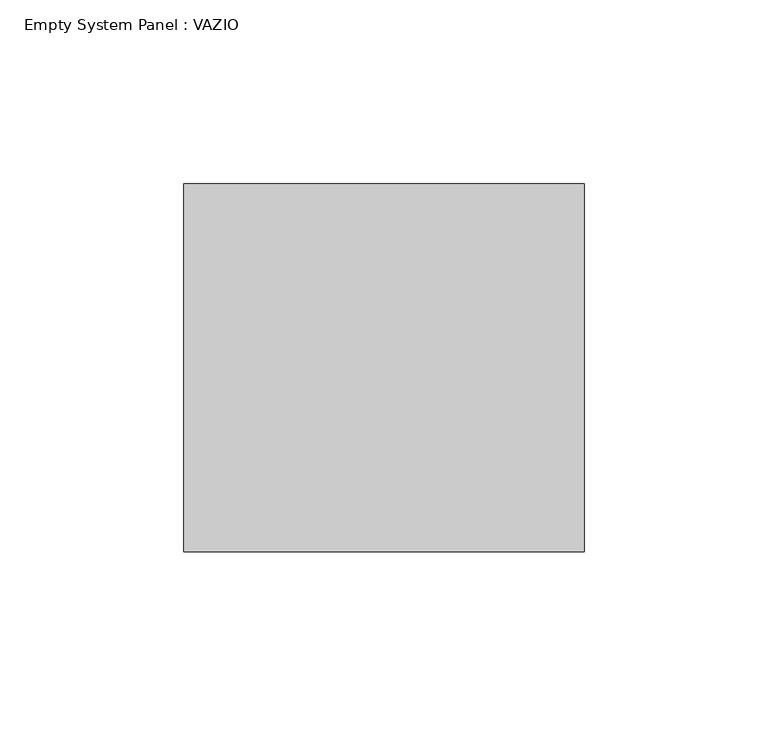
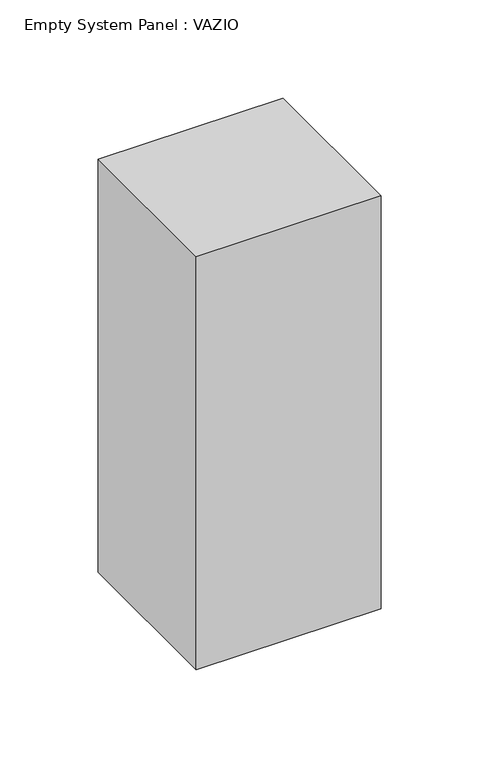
"""IFC4 building model written with IfcOpenShell, lengths in millimetres: plate geometry, Empty System Panel : VAZIO."""

import ifcopenshell
import ifcopenshell.guid

model = None  # the IFC model being written
_history = None  # IfcOwnerHistory: only IFC2X3 demands one
_inside = {}  # id of a spatial element -> (the spatial element, [elements in it])
_under = {}  # id of a project, library or spatial element -> (it, [spatial elements below it])
_declared = {}  # id of a project -> (the project, [libraries it declares])
_typed = {}  # id of a type object -> (the type object, [elements of that type])
_made_of = {}  # id of a material, layer set ... -> (it, [elements and type objects made of it])


def new_model(schema):
    """Start an empty IFC model of exactly this schema.

    Asked for "IFC4X3", IfcOpenShell would pick the latest addendum, in which some entities
    have other attributes; the version numbers below select the first issue.
    IFC2X3 requires an IfcOwnerHistory on every rooted entity: one is made here for all.
    """
    global model, _history
    if schema == "IFC4X3":
        model = ifcopenshell.file(schema_version=(4, 3, 0, 0))
    else:
        model = ifcopenshell.file(schema=schema)
    _inside.clear()
    _under.clear()
    _declared.clear()
    _typed.clear()
    _made_of.clear()
    _history = None
    if model.schema == "IFC2X3":
        org = make("IfcOrganization", Name="unknown")
        user = make(
            "IfcPersonAndOrganization",
            ThePerson=make("IfcPerson", FamilyName="unknown"),
            TheOrganization=org,
        )
        app = make(
            "IfcApplication",
            ApplicationDeveloper=org,
            Version="unknown",
            ApplicationFullName="unknown",
            ApplicationIdentifier="unknown",
        )
        _history = make(
            "IfcOwnerHistory",
            OwningUser=user,
            OwningApplication=app,
            ChangeAction="ADDED",
            CreationDate=0,
        )
    return model


def make(cls, **values):
    """One entity of the class cls with the attributes given. An attribute that is None is left unset."""
    return model.create_entity(
        cls, **{name: value for name, value in values.items() if value is not None}
    )


def rooted(cls, **values):
    """An entity with a GlobalId (a new one), such as an element, a storey or a relation."""
    return make(cls, GlobalId=ifcopenshell.guid.new(), OwnerHistory=_history, **values)


def si_unit(unit_type, name, prefix=None):
    """IfcSIUnit, for example si_unit("LENGTHUNIT", "METRE", prefix="MILLI")."""
    return make("IfcSIUnit", UnitType=unit_type, Prefix=prefix, Name=name)


def assignment(units):
    """IfcUnitAssignment: the units of a project."""
    return None if units is None else make("IfcUnitAssignment", Units=units)


def point(xyz):
    """IfcCartesianPoint."""
    return None if xyz is None else make("IfcCartesianPoint", Coordinates=xyz)


def direction(xyz):
    """IfcDirection."""
    return None if xyz is None else make("IfcDirection", DirectionRatios=xyz)


def frame(location, z_axis=None, x_axis=None):
    """IfcAxis2Placement3D, a coordinate frame: its origin and axes. An axis left out is left unset."""
    return make(
        "IfcAxis2Placement3D",
        Location=point(location),
        Axis=direction(z_axis),
        RefDirection=direction(x_axis),
    )


def origin():
    """The frame at (0, 0, 0) with its axes left unset."""
    return frame((0.0, 0.0, 0.0))


def origin_with_axes():
    """The frame at (0, 0, 0) with the z axis (0, 0, 1) and the x axis (1, 0, 0) written out."""
    return frame((0.0, 0.0, 0.0), z_axis=(0.0, 0.0, 1.0), x_axis=(1.0, 0.0, 0.0))


def place(relative_to, where):
    """IfcLocalPlacement: puts the frame where relative to a parent placement (None: the world)."""
    return make(
        "IfcLocalPlacement", PlacementRelTo=relative_to, RelativePlacement=where
    )


def context(
    kind, dimensions, precision=None, world=None, true_north=None, identifier=None
):
    """IfcGeometricRepresentationContext, for example the 3D "Model" context."""
    return make(
        "IfcGeometricRepresentationContext",
        ContextIdentifier=identifier,
        ContextType=kind,
        CoordinateSpaceDimension=dimensions,
        Precision=precision,
        WorldCoordinateSystem=world,
        TrueNorth=true_north,
    )


def project(units=None, contexts=None):
    """IfcProject with its units and contexts."""
    return rooted(
        "IfcProject",
        Name="project",
        RepresentationContexts=contexts,
        UnitsInContext=assignment(units),
    )


def spatial(cls, under=None, at=None, **own):
    """A site, building, storey or space (cls), placed at a placement, below another one or the project."""
    s = rooted(cls, ObjectPlacement=at, **own)
    if under is not None:
        _under.setdefault(under.id(), (under, []))[1].append(s)
    return s


def polyline(points):
    """IfcPolyline through the points."""
    return make("IfcPolyline", Points=[point(p) for p in points])


def outline(outer, holes=None, kind="AREA"):
    """IfcArbitraryClosedProfileDef: a profile drawn as a closed curve; with holes, ...WithVoids."""
    if holes is None:
        return make("IfcArbitraryClosedProfileDef", ProfileType=kind, OuterCurve=outer)
    return make(
        "IfcArbitraryProfileDefWithVoids",
        ProfileType=kind,
        OuterCurve=outer,
        InnerCurves=holes,
    )


def extrude(swept, where, along, depth):
    """IfcExtrudedAreaSolid: the profile swept, set in the frame where, extruded along a direction by depth."""
    return make(
        "IfcExtrudedAreaSolid",
        SweptArea=swept,
        Position=where,
        ExtrudedDirection=direction(along),
        Depth=depth,
    )


def shape(context_of_items, identifier, shape_type, items):
    """IfcShapeRepresentation: the items that make up one representation, for example the "Body"."""
    return make(
        "IfcShapeRepresentation",
        ContextOfItems=context_of_items,
        RepresentationIdentifier=identifier,
        RepresentationType=shape_type,
        Items=items,
    )


def source(mapping_origin, context_of_items, identifier, shape_type, items):
    """IfcRepresentationMap: a shape defined once, which mapped items show again and again."""
    return make(
        "IfcRepresentationMap",
        MappingOrigin=mapping_origin,
        MappedRepresentation=shape(context_of_items, identifier, shape_type, items),
    )


def transform(
    local_origin,
    x_axis=None,
    y_axis=None,
    z_axis=None,
    scale=None,
    scale2=None,
    scale3=None,
    uniform=True,
):
    """IfcCartesianTransformationOperator3D, or its non-uniform kind. x_axis, y_axis, z_axis: its Axis1, 2, 3."""
    if uniform:
        return make(
            "IfcCartesianTransformationOperator3D",
            Axis1=direction(x_axis),
            Axis2=direction(y_axis),
            LocalOrigin=point(local_origin),
            Scale=scale,
            Axis3=direction(z_axis),
        )
    return make(
        "IfcCartesianTransformationOperator3DnonUniform",
        Axis1=direction(x_axis),
        Axis2=direction(y_axis),
        LocalOrigin=point(local_origin),
        Scale=scale,
        Axis3=direction(z_axis),
        Scale2=scale2,
        Scale3=scale3,
    )


def mapped(mapping_source, mapping_target):
    """IfcMappedItem: shows the shape of a source again, moved by a transform."""
    return make(
        "IfcMappedItem", MappingSource=mapping_source, MappingTarget=mapping_target
    )


def made_of(thing, what):
    """Note that an element or type object is made of a material, layer set ...; save() writes the relation."""
    if what is not None:
        _made_of.setdefault(what.id(), (what, []))[1].append(thing)
    return thing


def element(
    cls,
    number,
    at=None,
    inside=None,
    cuts=None,
    type_object=None,
    material=None,
    context=None,
    identifier="Body",
    shape_type=None,
    held_by="IfcProductDefinitionShape",
    body=None,
    shapes=None,
    **own,
):
    """One element of the class cls, such as IfcWall. Its Tag is "e" and its number.

    at: its placement. inside: the storey or other place that contains it. cuts: it is an
    opening in that element (IfcRelVoidsElement). A single representation is given by context,
    identifier, shape_type and body (its items); several are given by shapes. held_by: the class
    of the entity that holds the representations. save() writes the other relations.
    """
    e = rooted(cls, Tag="e%d" % number, ObjectPlacement=at, **own)
    if body is not None:
        shapes = [shape(context, identifier, shape_type, body)]
    if shapes is not None:
        e.Representation = make(held_by, Representations=shapes)
    if inside is not None:
        _inside.setdefault(inside.id(), (inside, []))[1].append(e)
    if cuts is not None:
        rooted(
            "IfcRelVoidsElement", RelatingBuildingElement=cuts, RelatedOpeningElement=e
        )
    if type_object is not None:
        _typed.setdefault(type_object.id(), (type_object, []))[1].append(e)
    return made_of(e, material)


def aggregate(whole, parts):
    """IfcRelAggregates: a whole, such as a stair, and the parts it consists of."""
    return rooted("IfcRelAggregates", RelatingObject=whole, RelatedObjects=parts)


def save(model, path):
    """Write the relations noted so far, then the file.

    IfcRelAggregates (storeys below a building ...), IfcRelContainedInSpatialStructure (elements
    in a storey), IfcRelDefinesByType, IfcRelAssociatesMaterial and IfcRelDeclares: one each for
    every whole, place, type object, material and project.
    """
    for whole, parts in _under.values():
        aggregate(whole, parts)
    for where, things in _inside.values():
        rooted(
            "IfcRelContainedInSpatialStructure",
            RelatedElements=things,
            RelatingStructure=where,
        )
    for kind, things in _typed.values():
        rooted("IfcRelDefinesByType", RelatedObjects=things, RelatingType=kind)
    for what, things in _made_of.values():
        rooted("IfcRelAssociatesMaterial", RelatedObjects=things, RelatingMaterial=what)
    for by, libraries in _declared.values():
        rooted("IfcRelDeclares", RelatingContext=by, RelatedDefinitions=libraries)
    model.write(path)


def empty_system_panel_vazio_54c19a60(model_context):
    return source(origin(), model_context, "Body", "SweptSolid", [
        extrude(outline(polyline([(54.3902439, -50.0), (-54.3902439, -50.0), (-54.3902439, 50.0), (54.3902439, 50.0), (54.3902439, -50.0)])), origin_with_axes(), (0.0, 0.0, 1.0), 256.7936467),
    ])


if __name__ == "__main__":
    model = new_model("IFC4")
    model_context = context("Model", 3, world=origin())
    ifc_project = project(units=[si_unit("LENGTHUNIT", "METRE", prefix="MILLI")], contexts=[model_context])
    site = spatial("IfcSite", under=ifc_project)
    building = spatial("IfcBuilding", under=site)
    placement = place(None, origin())
    empty_system_panel_vazio_shape = empty_system_panel_vazio_54c19a60(model_context)
    element("IfcPlate", 1, ObjectType="Empty System Panel : VAZIO", at=placement, inside=building, context=model_context, shape_type="MappedRepresentation", body=[
        mapped(empty_system_panel_vazio_shape, transform((0.0, 0.0, 0.0), x_axis=(1.0, 0.0, 0.0), y_axis=(0.0, 1.0, 0.0), z_axis=(0.0, 0.0, 1.0))),
    ])
    save(model, "model.ifc")
